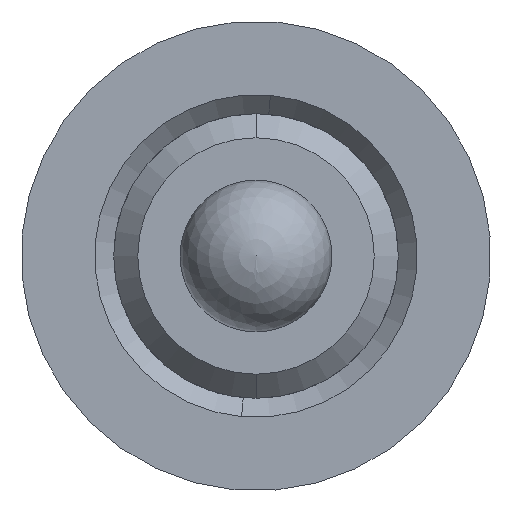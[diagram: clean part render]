
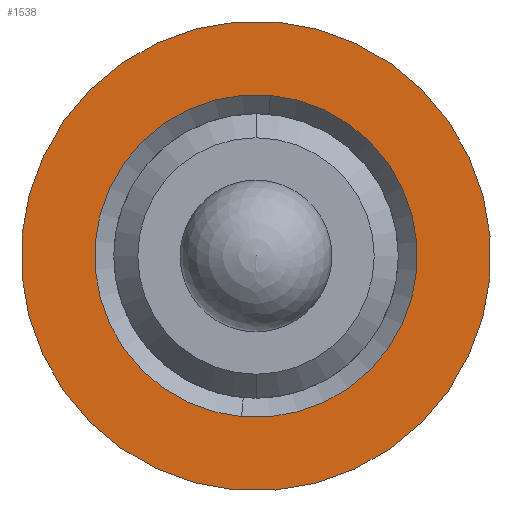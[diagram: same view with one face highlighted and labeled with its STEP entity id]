
A CAD part, left-side view. The second image highlights one B-rep face of the part: STEP entity #1538.
In plain terms, the highlighted planar face has unit normal (-1, 0, 0).
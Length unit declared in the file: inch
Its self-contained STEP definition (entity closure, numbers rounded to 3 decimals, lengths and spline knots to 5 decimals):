
#9 = EDGE_LOOP ( 'NONE', ( #727, #1210 ) ) ;
#150 = AXIS2_PLACEMENT_3D ( 'NONE', #877, #879, #880 ) ;
#156 = CARTESIAN_POINT ( 'NONE',  ( 0.08264, 0.3165, 0.37116 ) ) ;
#194 = FACE_OUTER_BOUND ( 'NONE', #985, .T. ) ;
#197 = DIRECTION ( 'NONE',  ( 0., 0.996, 0.089 ) ) ;
#199 = DIRECTION ( 'NONE',  ( 1., 0., 0. ) ) ;
#200 = ORIENTED_EDGE ( 'NONE', *, *, #1531, .T. ) ;
#202 = CARTESIAN_POINT ( 'NONE',  ( 0.08264, 0.31052, 0.43782 ) ) ;
#261 = ORIENTED_EDGE ( 'NONE', *, *, #1047, .T. ) ;
#282 = AXIS2_PLACEMENT_3D ( 'NONE', #295, #939, #716 ) ;
#295 = CARTESIAN_POINT ( 'NONE',  ( 0.08264, 0.31052, 0.43782 ) ) ;
#333 = PLANE ( 'NONE',  #915 ) ;
#343 = VERTEX_POINT ( 'NONE', #1232 ) ;
#344 = CIRCLE ( 'NONE', #1378, 0.06693 ) ;
#391 = VERTEX_POINT ( 'NONE', #1323 ) ;
#447 = DIRECTION ( 'NONE',  ( 1., 0., 0. ) ) ;
#583 = VERTEX_POINT ( 'NONE', #1468 ) ;
#621 = DIRECTION ( 'NONE',  ( 0., -0.996, -0.089 ) ) ;
#706 = CARTESIAN_POINT ( 'NONE',  ( 0.08264, 0.40757, 0.44653 ) ) ;
#716 = DIRECTION ( 'NONE',  ( 0., -0.996, -0.089 ) ) ;
#727 = ORIENTED_EDGE ( 'NONE', *, *, #962, .T. ) ;
#796 = CIRCLE ( 'NONE', #150, 0.06693 ) ;
#877 = CARTESIAN_POINT ( 'NONE',  ( 0.08264, 0.31052, 0.43782 ) ) ;
#879 = DIRECTION ( 'NONE',  ( 1., 0., 0. ) ) ;
#880 = DIRECTION ( 'NONE',  ( 0., 0.996, 0.089 ) ) ;
#915 = AXIS2_PLACEMENT_3D ( 'NONE', #706, #447, #970 ) ;
#939 = DIRECTION ( 'NONE',  ( -1., 0., 0. ) ) ;
#962 = EDGE_CURVE ( 'NONE', #343, #1345, #796, .T. ) ;
#970 = DIRECTION ( 'NONE',  ( 0., 0.996, 0.089 ) ) ;
#985 = EDGE_LOOP ( 'NONE', ( #261, #200 ) ) ;
#1047 = EDGE_CURVE ( 'NONE', #391, #583, #1373, .T. ) ;
#1189 = DIRECTION ( 'NONE',  ( -1., 0., 0. ) ) ;
#1199 = CARTESIAN_POINT ( 'NONE',  ( 0.08264, 0.31052, 0.43782 ) ) ;
#1210 = ORIENTED_EDGE ( 'NONE', *, *, #1327, .T. ) ;
#1232 = CARTESIAN_POINT ( 'NONE',  ( 0.08264, 0.30453, 0.50448 ) ) ;
#1240 = CIRCLE ( 'NONE', #282, 0.09744 ) ;
#1273 = AXIS2_PLACEMENT_3D ( 'NONE', #1199, #1189, #621 ) ;
#1323 = CARTESIAN_POINT ( 'NONE',  ( 0.08264, 0.21347, 0.42911 ) ) ;
#1327 = EDGE_CURVE ( 'NONE', #1345, #343, #344, .T. ) ;
#1345 = VERTEX_POINT ( 'NONE', #156 ) ;
#1373 = CIRCLE ( 'NONE', #1273, 0.09744 ) ;
#1378 = AXIS2_PLACEMENT_3D ( 'NONE', #202, #199, #197 ) ;
#1468 = CARTESIAN_POINT ( 'NONE',  ( 0.08264, 0.40757, 0.44653 ) ) ;
#1480 = FACE_BOUND ( 'NONE', #9, .T. ) ;
#1531 = EDGE_CURVE ( 'NONE', #583, #391, #1240, .T. ) ;
#1538 = ADVANCED_FACE ( 'NONE', ( #1480, #194 ), #333, .F. ) ;
